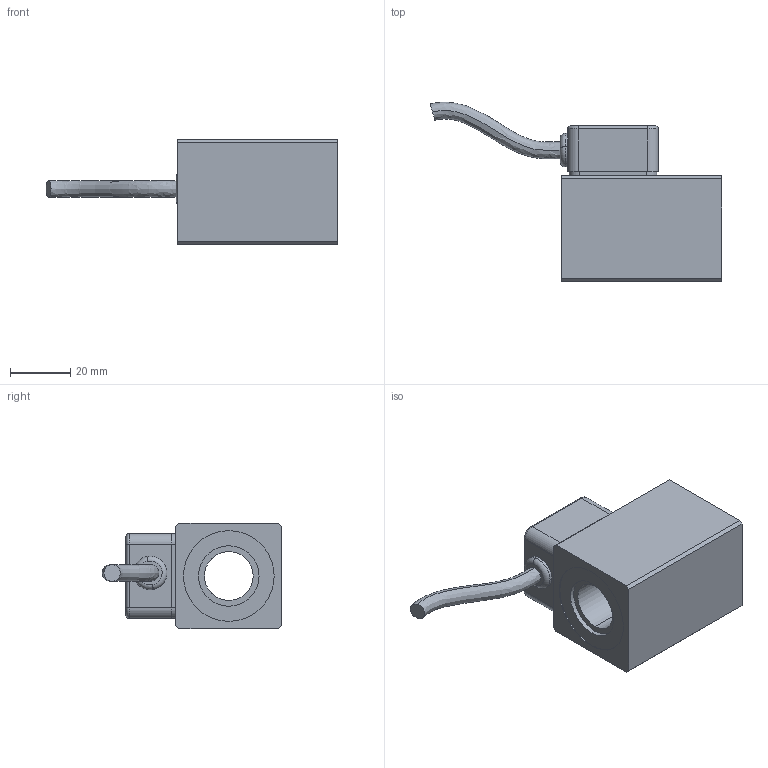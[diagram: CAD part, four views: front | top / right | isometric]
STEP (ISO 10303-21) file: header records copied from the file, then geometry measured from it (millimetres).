
FILE_DESCRIPTION (( 'STEP AP214' ), '1' );
FILE_NAME ('MKS35_16x50.STEP', '2015-07-07T04:52:08', ( '' ), ( '' ), 'SwSTEP 2.0', 'SolidWorks 2014', '' );
FILE_SCHEMA (( 'AUTOMOTIVE_DESIGN' ));
Length unit declared in the file: millimetre
Products named in the file (2): MKS35_16x50
Bounding box: 96.51 x 59.34 x 35 mm (x, y, z)
Volume: 65701.2 mm3; surface area: 19328.5 mm2
Topology: 5 solids, 5 shells, 232 faces, 541 edges, 334 vertices
Faces by surface type: cylinder 99, plane 88, torus 28, cone 8, sphere 7, bspline 2
Entity records: 9632 total; most frequent: CARTESIAN_POINT 1633, DIRECTION 1214, ORIENTED_EDGE 1068, EDGE_CURVE 534, AXIS2_PLACEMENT_3D 478, VERTEX_POINT 334, EDGE_LOOP 260, VECTOR 258
